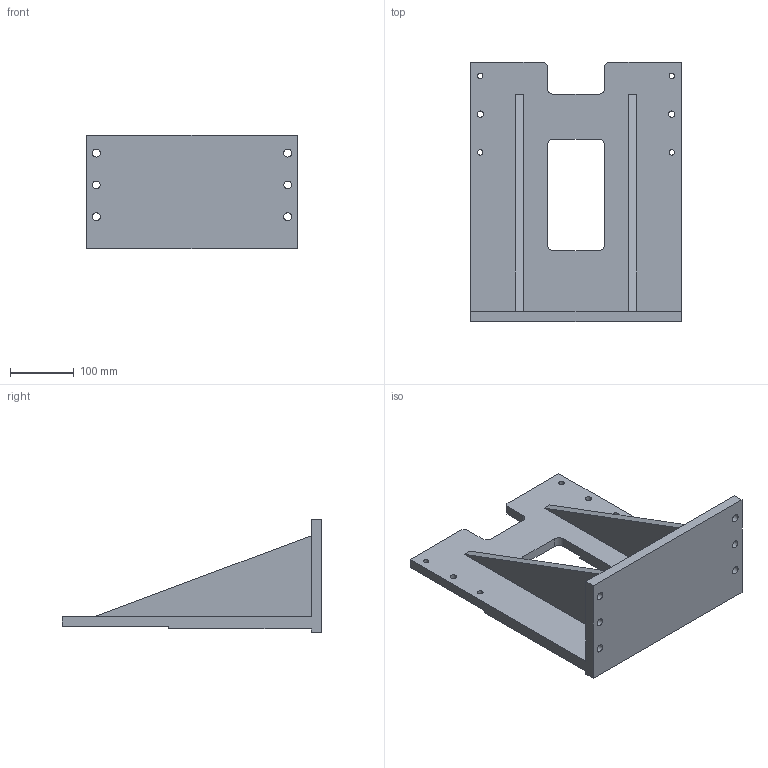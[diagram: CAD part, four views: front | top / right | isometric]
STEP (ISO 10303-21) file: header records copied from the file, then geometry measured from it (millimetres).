
FILE_DESCRIPTION(/* description */ ('DB4-RISER'),/* implementation_level */ '2;1');
FILE_NAME(/* name */ 'C:\Vault Workspace\CAD\Welker\Shot Pin\DBL40\S01896 DB4 Mounting Accessories\S01896E02\S01896E02-325.stp',/* time_stamp */ '2016-05-04T13:50:18-04:00',/* author */ ('klabrecque'),/* organization */ (''),/* preprocessor_version */ 'ST-DEVELOPER v15.2',/* originating_system */ 'Autodesk Inventor 2014',/* authorisation */ '');
FILE_SCHEMA (('AUTOMOTIVE_DESIGN { 1 0 10303 214 3 1 1 }'));
Length unit declared in the file: millimetre
Products named in the file (1): S01896E02-325
Bounding box: 330 x 406 x 177.8 mm (x, y, z)
Volume: 3353161.5 mm3; surface area: 462016.8 mm2
Topology: 1 solids, 1 shells, 47 faces, 150 edges, 104 vertices
Faces by surface type: plane 29, cylinder 18
Full cylindrical faces by diameter (mm): 8.376 x4, 10 x2, 12 x2, 12.5 x4
Entity records: 1628 total; most frequent: CARTESIAN_POINT 266, DIRECTION 258, ORIENTED_EDGE 252, EDGE_CURVE 126, VERTEX_POINT 92, LINE 90, VECTOR 90, EDGE_LOOP 84
